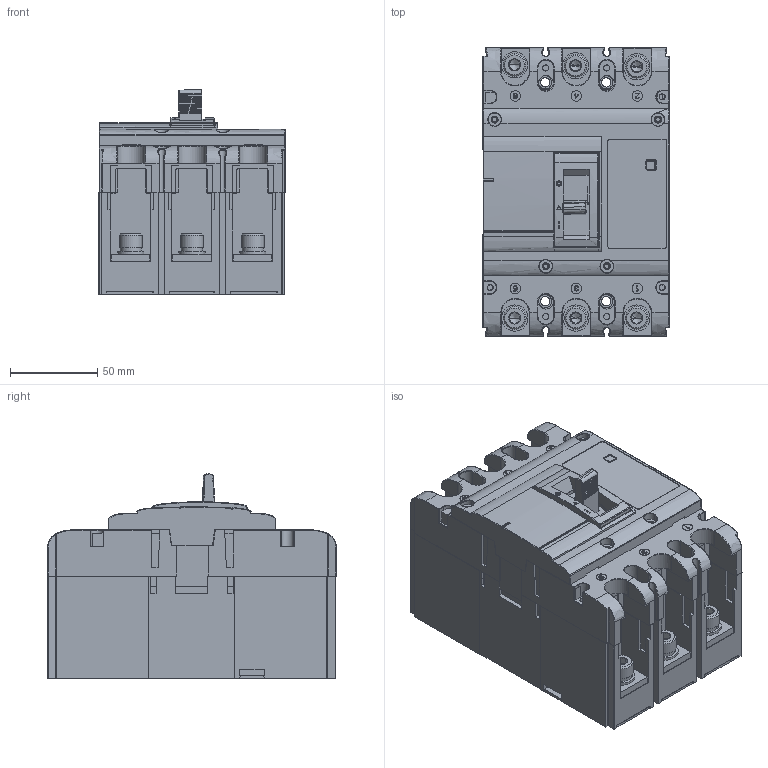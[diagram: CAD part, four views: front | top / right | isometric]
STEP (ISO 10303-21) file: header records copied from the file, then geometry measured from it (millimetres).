
FILE_DESCRIPTION((''),'2;1');
FILE_NAME('TGM1N_K_G_H_-250M-3P_ASM','2019-03-15T',('Administrator'),(''),'PRO/ENGINEER BY PARAMETRIC TECHNOLOGY CORPORATION, 2017170','PRO/ENGINEER BY PARAMETRIC TECHNOLOGY CORPORATION, 2017170','');
FILE_SCHEMA(('CONFIG_CONTROL_DESIGN'));
Products named in the file (21): JIZUO3PM_2; 5TZD-024-1025_ASM_7_ASM; 8TZD-585-223_5; 5TZD_552_055_ASM_7_ASM; 8TZD_742_1050X_9; 8TZD_253_1013-TKAN_5; 8TZD-282-1035_3; 8TZD-750-1018_3; GB_T848-8_3; GB_T93-8_4; GB_T70_1-M8X20_3; 8TZD-585-1040_4; 5TZD-599-1037-1-8_ASM_4_ASM; 5TZD-599-1038-1-8_ASM_4_ASM; 5TZD-599-1039-1-8_ASM_4_ASM; 2TZD-256-1011-1-8_ASM_19_ASM; 3P-ZG; 4P-SG; 8TZD_253_1262; 8TZD_742_1014; TGM1N_K_G_H_-250M-3P_ASM
Assembly tree (43 placements, depth 6):
  TGM1N_K_G_H_-250M-3P_ASM
    2TZD-256-1011-1-8_ASM_19_ASM
      5TZD-024-1025_ASM_7_ASM
        JIZUO3PM_2
      5TZD_552_055_ASM_7_ASM  x3
        8TZD-585-223_5
      8TZD_742_1050X_9  x3
      8TZD_253_1013-TKAN_5
      8TZD-282-1035_3
      8TZD-750-1018_3
      GB_T848-8_3  x6
      GB_T93-8_4  x6
      GB_T70_1-M8X20_3  x6
      5TZD-599-1039-1-8_ASM_4_ASM  x3
        5TZD-599-1038-1-8_ASM_4_ASM
          5TZD-599-1037-1-8_ASM_4_ASM
            8TZD-585-1040_4
    3P-ZG
    4P-SG
    8TZD_253_1262
    8TZD_742_1014  x3
Bounding box: 106.95 x 165.5 x 117.09 mm (x, y, z)
Volume: 1357219.4 mm3; surface area: 316314.2 mm2
Topology: 38 solids, 72 shells, 3507 faces, 9412 edges, 6103 vertices
Faces by surface type: plane 2241, cylinder 831, bspline 131, cone 96, torus 90, sphere 78, extrusion 40
Entity records: 111245 total; most frequent: CARTESIAN_POINT 32491, ORIENTED_EDGE 16792, DIRECTION 15574, EDGE_CURVE 8406, VECTOR 6112, LINE 6072, VERTEX_POINT 5462, AXIS2_PLACEMENT_3D 4731
